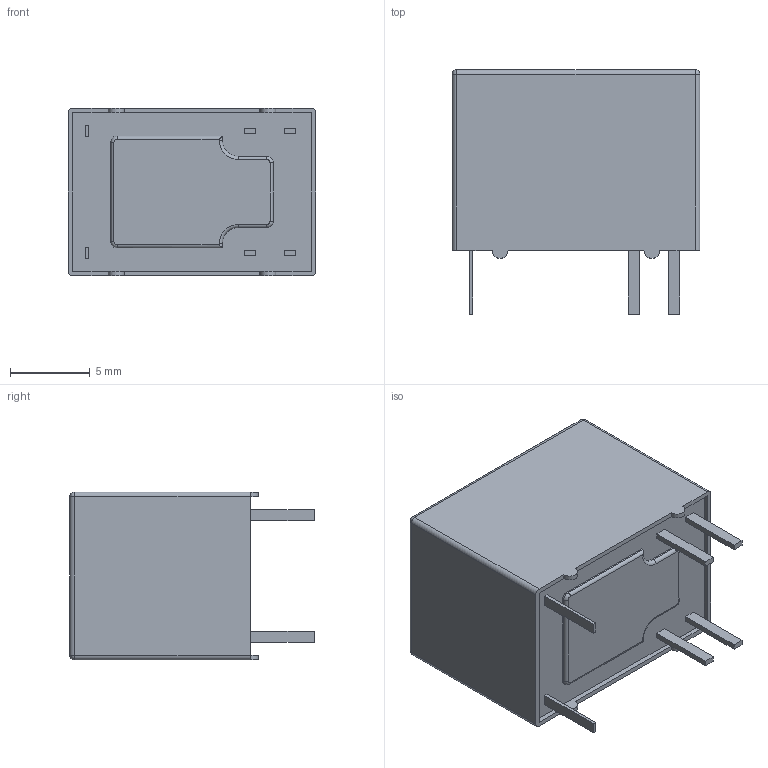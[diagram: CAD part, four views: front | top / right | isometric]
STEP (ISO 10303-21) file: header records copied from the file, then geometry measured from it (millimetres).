
FILE_DESCRIPTION (( 'STEP AP214' ), '1' );
FILE_NAME ('HK4100F-DC5V-SHG.STEP', '2024-07-14T03:31:09', ( '' ), ( '' ), 'SwSTEP 2.0', 'SolidWorks 2021', '' );
FILE_SCHEMA (( 'AUTOMOTIVE_DESIGN' ));
Length unit declared in the file: millimetre
Products named in the file (1): HK4100F-DC5V-SHG
Bounding box: 15.5 x 15.3 x 10.5 mm (x, y, z)
Volume: 1817.6 mm3; surface area: 980.3 mm2
Topology: 7 solids, 7 shells, 95 faces, 218 edges, 134 vertices
Faces by surface type: plane 59, cylinder 26, torus 6, sphere 4
Entity records: 2702 total; most frequent: DIRECTION 458, CARTESIAN_POINT 450, ORIENTED_EDGE 428, EDGE_CURVE 214, VECTOR 158, LINE 158, AXIS2_PLACEMENT_3D 150, VERTEX_POINT 134
